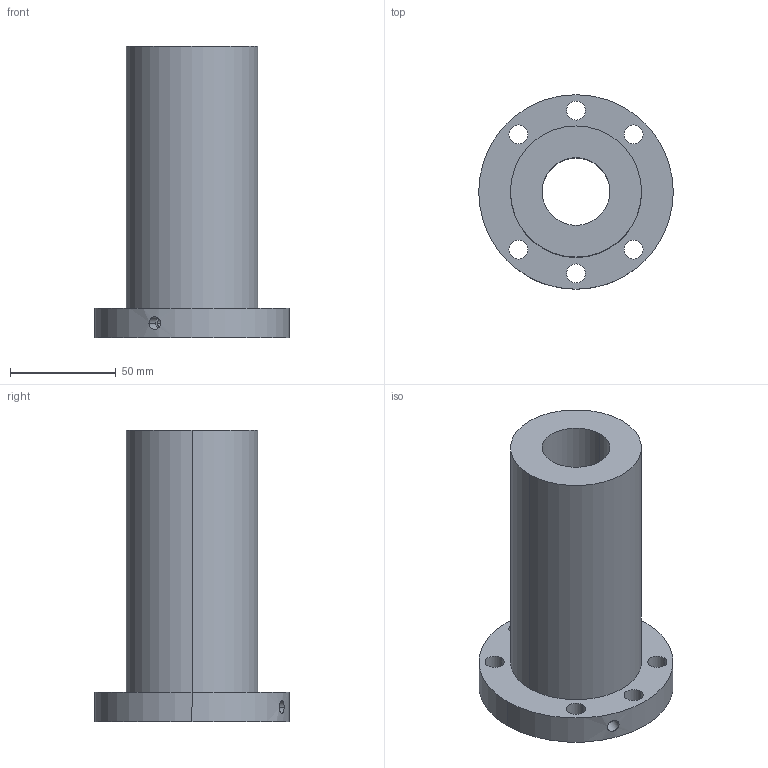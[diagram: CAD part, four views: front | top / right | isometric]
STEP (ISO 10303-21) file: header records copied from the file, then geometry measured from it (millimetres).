
FILE_DESCRIPTION((''),'2;1');
FILE_NAME('32-10K5_635','2008-04-10T',('yanyu'),(''),'PRO/ENGINEER BY PARAMETRIC TECHNOLOGY CORPORATION, 2005070','PRO/ENGINEER BY PARAMETRIC TECHNOLOGY CORPORATION, 2005070','');
FILE_SCHEMA(('CONFIG_CONTROL_DESIGN'));
Length unit declared in the file: millimetre
Products named in the file (1): 32-10K5_635
Bounding box: 92 x 92 x 138 mm (x, y, z)
Volume: 350598.9 mm3; surface area: 55772.5 mm2
Topology: 1 solids, 1 shells, 26 faces, 66 edges, 44 vertices
Faces by surface type: cylinder 22, plane 4
Entity records: 922 total; most frequent: CARTESIAN_POINT 186, DIRECTION 154, ORIENTED_EDGE 132, AXIS2_PLACEMENT_3D 66, EDGE_CURVE 66, VERTEX_POINT 44, EDGE_LOOP 44, CIRCLE 40
